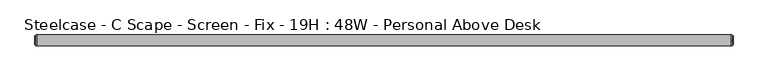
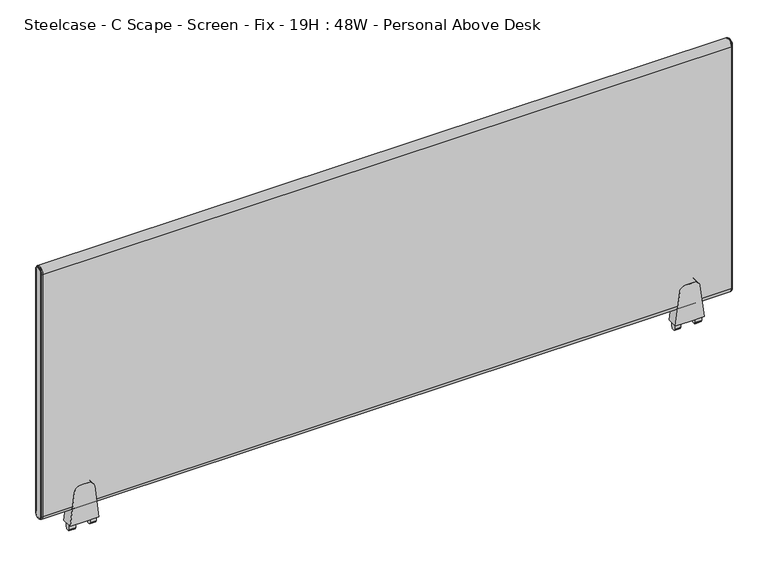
"""IFC4 building model written with IfcOpenShell, lengths in millimetres: furniture geometry, Steelcase - C Scape - Screen - Fix - 19H : 48W - Personal Above Desk."""

from ifc_helpers import new_model, si_unit, point, frame, frame_2d, origin, place, context, project, spatial, polyline, circle_curve, ellipse_curve, trimmed, segment, composite_curve, outline, extrude, source, transform, mapped, element, save
from ifc_brep_helpers import plane_surface, cylinder_surface, revolved_surface, advanced_brep


def steelcase_c_scape_screen_fix_19h_48w_personal_above_desk_32d75e96(model_context):
    return source(origin(), model_context, "Body", "SolidModel", [
        extrude(outline(composite_curve([segment(polyline([(729.653112, 101.4730434), (789.9782421, 94.0661495)]), True, "CONTINUOUS"), segment(trimmed(circle_curve(frame_2d((788.6563718, 83.300233)), 10.8467645), [point((789.9782421, 94.0661495))], [point((799.5031362, 83.300233))], False, "CARTESIAN"), True, "CONTINUOUS"), segment(polyline([(799.5031362, 83.300233), (799.5031362, 76.2001674), (799.5031362, 69.1001018)]), True, "CONTINUOUS"), segment(trimmed(circle_curve(frame_2d((788.6563718, 69.1001018)), 10.8467645), [point((799.5031362, 69.1001018))], [point((789.9782421, 58.3341853))], False, "CARTESIAN"), True, "CONTINUOUS"), segment(polyline([(789.9782421, 58.3341853), (729.653112, 50.9272915), (729.653112, 76.2001674), (729.653112, 101.4730434)]), True, "CONTINUOUS")], self_intersect=False)), frame((0.0, -9.525, 0.0), z_axis=(0.0, 1.0, 0.0), x_axis=(0.0, 0.0, 1.0)), (0.0, 0.0, 1.0), 19.05),
        extrude(outline(polyline([(4.5465975, 729.653112), (4.5465975, 719.7471033), (4.0139265, 718.8606748), (2.9972008, 718.8606748), (2.9972008, 716.6254188), (0.0, 716.534), (-2.9972008, 716.6254188), (-2.9972008, 718.8606748), (-4.0139265, 718.8606748), (-4.5465975, 719.7471033), (-4.5465975, 729.653112), (0.0, 729.653112), (4.5465975, 729.653112)])), frame((88.9267162, 0.0, 0.0), z_axis=(1.0, 0.0, 0.0), x_axis=(0.0, 1.0, 0.0)), (0.0, 0.0, 1.0), 10.7813187),
        extrude(outline(polyline([(4.5465975, 729.653112), (4.5465975, 719.7471033), (4.0139265, 718.8606748), (2.9972008, 718.8606748), (2.9972008, 716.6254188), (0.0, 716.534), (-2.9972008, 716.6254188), (-2.9972008, 718.8606748), (-4.0139265, 718.8606748), (-4.5465975, 719.7471033), (-4.5465975, 729.653112), (0.0, 729.653112), (4.5465975, 729.653112)])), frame((52.6923, 0.0, 0.0), z_axis=(1.0, 0.0, 0.0), x_axis=(0.0, 1.0, 0.0)), (0.0, 0.0, 1.0), 10.7813187),
        extrude(outline(composite_curve([segment(polyline([(729.653112, 1167.5107132), (789.9782421, 1160.1038193)]), True, "CONTINUOUS"), segment(trimmed(circle_curve(frame_2d((788.6563718, 1149.3379028)), 10.8467645), [point((789.9782421, 1160.1038193))], [point((799.5031362, 1149.3379028))], False, "CARTESIAN"), True, "CONTINUOUS"), segment(polyline([(799.5031362, 1149.3379028), (799.5031362, 1142.2378372), (799.5031362, 1135.1377716)]), True, "CONTINUOUS"), segment(trimmed(circle_curve(frame_2d((788.6563718, 1135.1377716)), 10.8467645), [point((799.5031362, 1135.1377716))], [point((789.9782421, 1124.3718551))], False, "CARTESIAN"), True, "CONTINUOUS"), segment(polyline([(789.9782421, 1124.3718551), (729.653112, 1116.9649612), (729.653112, 1142.2378372), (729.653112, 1167.5107132)]), True, "CONTINUOUS")], self_intersect=False)), frame((0.0, -9.525, 0.0), z_axis=(0.0, 1.0, 0.0), x_axis=(0.0, 0.0, 1.0)), (0.0, 0.0, 1.0), 19.05),
        extrude(outline(polyline([(4.5465975, 729.653112), (4.5465975, 719.7471033), (4.0139265, 718.8606748), (2.9972008, 718.8606748), (2.9972008, 716.6254188), (0.0, 716.534), (-2.9972008, 716.6254188), (-2.9972008, 718.8606748), (-4.0139265, 718.8606748), (-4.5465975, 719.7471033), (-4.5465975, 729.653112), (0.0, 729.653112), (4.5465975, 729.653112)])), frame((1154.964386, 0.0, 0.0), z_axis=(1.0, 0.0, 0.0), x_axis=(0.0, 1.0, 0.0)), (0.0, 0.0, 1.0), 10.7813187),
        extrude(outline(polyline([(4.5465975, 729.653112), (4.5465975, 719.7471033), (4.0139265, 718.8606748), (2.9972008, 718.8606748), (2.9972008, 716.6254188), (0.0, 716.534), (-2.9972008, 716.6254188), (-2.9972008, 718.8606748), (-4.0139265, 718.8606748), (-4.5465975, 719.7471033), (-4.5465975, 729.653112), (0.0, 729.653112), (4.5465975, 729.653112)])), frame((1118.7299698, 0.0, 0.0), z_axis=(1.0, 0.0, 0.0), x_axis=(0.0, 1.0, 0.0)), (0.0, 0.0, 1.0), 10.7813187),
        advanced_brep(
        [(1215.6486613, -9.525, 1215.517), (1215.6486613, 9.525, 1215.517), (1215.6486613, 9.525, 764.667), (1215.6486613, -9.525, 764.667), (1218.4426613, 7.4929583, 1215.517), (1218.4426613, -7.4929583, 1215.517), (1218.4426613, -7.4929583, 764.667), (1218.4426613, 7.4929583, 764.667), (1217.9346545, -8.0009651, 1215.517), (1217.9346545, 8.0009651, 1215.517), (1216.6646613, 8.0009651, 1215.517), (1216.6646613, -8.0009651, 1215.517), (1216.6646613, -8.8204932, 1215.517), (1216.6646613, 8.8204932, 1215.517), (1216.6646613, -8.0009651, 764.667), (1217.9346545, -8.0009651, 764.667), (1216.6646613, -8.8204932, 764.667), (1216.6646613, 8.0009651, 764.667), (1217.9346545, 8.0009651, 764.667), (1216.6646613, 8.8204932, 764.667)],
        [
            (0, 1, circle_curve(frame((1215.6486613, 0.0, 1215.517), z_axis=(-1.0, 0.0, 0.0), x_axis=(0.0, 1.0, 0.0)), 9.525)),
            (1, 2),
            (2, 3, circle_curve(frame((1215.6486613, 0.0, 764.667), z_axis=(-1.0, 0.0, 0.0), x_axis=(0.0, -1.0, 0.0)), 9.525)),
            (3, 0),
            (4, 5, circle_curve(frame((1218.4426613, 0.0, 1215.517), z_axis=(1.0, 0.0, 0.0), x_axis=(0.0, 1.0, 0.0)), 7.4929583)),
            (5, 6),
            (6, 7, circle_curve(frame((1218.4426613, 0.0, 764.667), z_axis=(1.0, 0.0, 0.0), x_axis=(0.0, -1.0, 0.0)), 7.4929583)),
            (7, 4),
            (8, 9, circle_curve(frame((1217.9346545, 0.0, 1215.517), z_axis=(-1.0, 0.0, 0.0), x_axis=(0.0, 1.0, 0.0)), 8.0009651)),
            (9, 10),
            (10, 11, circle_curve(frame((1216.6646613, 0.0, 1215.517), z_axis=(1.0, 0.0, 0.0), x_axis=(0.0, 1.0, 0.0)), 8.0009651)),
            (11, 8),
            (8, 5, circle_curve(frame((1217.9346545, -7.4929583, 1215.517), z_axis=(0.0, 0.0, 1.0), x_axis=(0.0, -1.0, 0.0)), 0.5080068)),
            (4, 9, circle_curve(frame((1217.9346545, 7.4929583, 1215.517), z_axis=(0.0, 0.0, 1.0), x_axis=(0.0, 1.0, 0.0)), 0.5080068)),
            (12, 13, circle_curve(frame((1216.6646613, 0.0, 1215.517), z_axis=(-1.0, 0.0, 0.0), x_axis=(0.0, 1.0, 0.0)), 8.8204932)),
            (13, 1, circle_curve(frame((1215.5806211, 8.3420139, 1215.517), z_axis=(0.0, 0.0, 1.0), x_axis=(0.0, 1.0, 0.0)), 1.1849411)),
            (0, 12, circle_curve(frame((1215.5806211, -8.3420139, 1215.517), z_axis=(0.0, 0.0, 1.0), x_axis=(0.0, -1.0, 0.0)), 1.1849411)),
            (11, 14),
            (14, 15),
            (15, 8),
            (15, 6, circle_curve(frame((1217.9346545, -7.4929583, 764.667), z_axis=(0.0, 0.0, 1.0), x_axis=(0.0, -1.0, 0.0)), 0.5080068)),
            (3, 16, circle_curve(frame((1215.5806211, -8.3420139, 764.667), z_axis=(0.0, 0.0, 1.0), x_axis=(0.0, -1.0, 0.0)), 1.1849411)),
            (16, 12),
            (14, 17, circle_curve(frame((1216.6646613, 0.0, 764.667), z_axis=(1.0, 0.0, 0.0), x_axis=(0.0, -1.0, 0.0)), 8.0009651)),
            (17, 18),
            (18, 15, circle_curve(frame((1217.9346545, 0.0, 764.667), z_axis=(-1.0, 0.0, 0.0), x_axis=(0.0, -1.0, 0.0)), 8.0009651)),
            (18, 7, circle_curve(frame((1217.9346545, 7.4929583, 764.667), z_axis=(0.0, 0.0, -1.0), x_axis=(0.0, 1.0, 0.0)), 0.5080068)),
            (2, 19, circle_curve(frame((1215.5806211, 8.3420139, 764.667), z_axis=(0.0, 0.0, -1.0), x_axis=(0.0, 1.0, 0.0)), 1.1849411)),
            (19, 16, circle_curve(frame((1216.6646613, 0.0, 764.667), z_axis=(-1.0, 0.0, 0.0), x_axis=(0.0, -1.0, 0.0)), 8.8204932)),
            (9, 18),
            (17, 10),
            (13, 19),
        ],
        [
            plane_surface(frame((1215.6486613, -6.3509705, 1215.517), z_axis=(-1.0, 0.0, 0.0), x_axis=(0.0, 0.0, 1.0))),
            plane_surface(frame((1218.4426613, -6.3509705, 1215.517), z_axis=(1.0, 0.0, 0.0), x_axis=(0.0, 0.0, -1.0))),
            cylinder_surface(frame((1215.6486613, 0.0, 1215.517), z_axis=(1.0, 0.0, 0.0), x_axis=(0.0, 1.0, 0.0)), 8.0009651),
            revolved_surface(trimmed(ellipse_curve(frame((1217.9346545, 7.4929583, 1215.517), z_axis=(0.0, 0.0, -1.0), x_axis=(0.0, 1.0, 0.0)), 0.5080068, 0.5080068), [point((1217.9346545, 8.0009651, 1215.517))], [point((1218.4426613, 7.4929583, 1215.517))], True, "CARTESIAN"), (1215.6486613, 0.0, 1215.517), (1.0, 0.0, 0.0)),
            revolved_surface(trimmed(ellipse_curve(frame((1215.5806211, 8.3420139, 1215.517), z_axis=(0.0, 0.0, -1.0), x_axis=(0.0, 1.0, 0.0)), 1.1849411, 1.1849411), [point((1215.6486613, 9.525, 1215.517))], [point((1216.6646613, 8.8204932, 1215.517))], True, "CARTESIAN"), (1215.6486613, 0.0, 1215.517), (1.0, 0.0, 0.0)),
            plane_surface(frame((1216.6646613, -8.0009651, 1215.517), z_axis=(0.0, -1.0, 0.0), x_axis=(0.0, 0.0, -1.0))),
            cylinder_surface(frame((1217.9346545, -7.4929583, 1215.517), z_axis=(0.0, 0.0, 1.0), x_axis=(0.0, -1.0, 0.0)), 0.5080068),
            cylinder_surface(frame((1215.5806211, -8.3420139, 1215.517), z_axis=(0.0, 0.0, 1.0), x_axis=(0.0, -1.0, 0.0)), 1.1849411),
            cylinder_surface(frame((1215.6486613, 0.0, 764.667), z_axis=(1.0, 0.0, 0.0), x_axis=(0.0, -1.0, 0.0)), 8.0009651),
            revolved_surface(trimmed(ellipse_curve(frame((1217.9346545, -7.4929583, 764.667), z_axis=(0.0, 0.0, 1.0), x_axis=(0.0, -1.0, 0.0)), 0.5080068, 0.5080068), [point((1217.9346545, -8.0009651, 764.667))], [point((1218.4426613, -7.4929583, 764.667))], True, "CARTESIAN"), (1215.6486613, 0.0, 764.667), (1.0, 0.0, 0.0)),
            revolved_surface(trimmed(ellipse_curve(frame((1215.5806211, -8.3420139, 764.667), z_axis=(0.0, 0.0, 1.0), x_axis=(0.0, -1.0, 0.0)), 1.1849411, 1.1849411), [point((1215.6486613, -9.525, 764.667))], [point((1216.6646613, -8.8204932, 764.667))], True, "CARTESIAN"), (1215.6486613, 0.0, 764.667), (1.0, 0.0, 0.0)),
            plane_surface(frame((1216.6646613, 8.0009651, 764.667), z_axis=(0.0, 1.0, 0.0), x_axis=(0.0, 0.0, 1.0))),
            cylinder_surface(frame((1217.9346545, 7.4929583, 764.667), z_axis=(0.0, 0.0, -1.0), x_axis=(0.0, 1.0, 0.0)), 0.5080068),
            cylinder_surface(frame((1215.5806211, 8.3420139, 764.667), z_axis=(0.0, 0.0, -1.0), x_axis=(0.0, 1.0, 0.0)), 1.1849411),
            plane_surface(frame((1216.6646613, 8.8204932, 764.667), z_axis=(1.0, 0.0, 0.0), x_axis=(0.0, 0.0, 1.0))),
        ],
        [
            (0, [[1, 2, 3, 4]]),
            (1, [[5, 6, 7, 8]]),
            (2, [[9, 10, 11, 12]]),
            (3, [[-9, 13, -5, 14]]),
            (4, [[15, 16, -1, 17]]),
            (5, [[-12, 18, 19, 20]]),
            (6, [[-13, -20, 21, -6]]),
            (7, [[-17, -4, 22, 23]]),
            (8, [[-19, 24, 25, 26]]),
            (9, [[-21, -26, 27, -7]]),
            (10, [[-22, -3, 28, 29]]),
            (11, [[-10, 30, -25, 31]]),
            (12, [[-14, -8, -27, -30]]),
            (13, [[-16, 32, -28, -2]]),
            (14, [[-15, -23, -29, -32], [-11, -31, -24, -18]]),
        ],
    ),
        advanced_brep(
        [(2.7940155, 9.525, 1215.517), (2.7940155, -9.525, 1215.517), (2.7940155, -9.525, 764.667), (2.7940155, 9.525, 764.667), (0.0, -7.4929583, 1215.517), (0.0, 7.4929583, 1215.517), (0.0, 7.4929583, 764.667), (0.0, -7.4929583, 764.667), (1.778, 8.8204932, 1215.517), (1.778, -8.8204932, 1215.517), (0.5080068, -8.0009651, 1215.517), (0.5080068, 8.0009651, 1215.517), (1.778, -8.0009651, 1215.517), (1.778, 8.0009651, 1215.517), (1.778, -8.8204932, 764.667), (0.5080068, -8.0009651, 764.667), (1.778, -8.0009651, 764.667), (1.778, 8.8204932, 764.667), (0.5080068, 8.0009651, 764.667), (1.778, 8.0009651, 764.667)],
        [
            (0, 1, circle_curve(frame((2.7940155, 0.0, 1215.517), z_axis=(1.0, 0.0, 0.0), x_axis=(0.0, 1.0, 0.0)), 9.525)),
            (1, 2),
            (2, 3, circle_curve(frame((2.7940155, 0.0, 764.667), z_axis=(1.0, 0.0, 0.0), x_axis=(0.0, -1.0, 0.0)), 9.525)),
            (3, 0),
            (4, 5, circle_curve(frame((0.0, 0.0, 1215.517), z_axis=(-1.0, 0.0, 0.0), x_axis=(0.0, 1.0, 0.0)), 7.4929583)),
            (5, 6),
            (6, 7, circle_curve(frame((0.0, 0.0, 764.667), z_axis=(-1.0, 0.0, 0.0), x_axis=(0.0, -1.0, 0.0)), 7.4929583)),
            (7, 4),
            (0, 8, circle_curve(frame((2.8620402, 8.3420139, 1215.517), z_axis=(0.0, 0.0, 1.0), x_axis=(0.0, -1.0, 0.0)), 1.1849411)),
            (8, 9, circle_curve(frame((1.778, 0.0, 1215.517), z_axis=(1.0, 0.0, 0.0), x_axis=(0.0, 1.0, 0.0)), 8.8204932)),
            (9, 1, circle_curve(frame((2.8620402, -8.3420139, 1215.517), z_axis=(0.0, 0.0, 1.0), x_axis=(0.0, 1.0, 0.0)), 1.1849411)),
            (10, 11, circle_curve(frame((0.5080068, 0.0, 1215.517), z_axis=(-1.0, 0.0, 0.0), x_axis=(0.0, 1.0, 0.0)), 8.0009651)),
            (11, 5, circle_curve(frame((0.5080068, 7.4929583, 1215.517), z_axis=(0.0, 0.0, 1.0), x_axis=(0.0, -1.0, 0.0)), 0.5080068)),
            (4, 10, circle_curve(frame((0.5080068, -7.4929583, 1215.517), z_axis=(0.0, 0.0, 1.0), x_axis=(0.0, 1.0, 0.0)), 0.5080068)),
            (10, 12),
            (12, 13, circle_curve(frame((1.778, 0.0, 1215.517), z_axis=(-1.0, 0.0, 0.0), x_axis=(0.0, 1.0, 0.0)), 8.0009651)),
            (13, 11),
            (9, 14),
            (14, 2, circle_curve(frame((2.8620402, -8.3420139, 764.667), z_axis=(0.0, 0.0, 1.0), x_axis=(0.0, 1.0, 0.0)), 1.1849411)),
            (7, 15, circle_curve(frame((0.5080068, -7.4929583, 764.667), z_axis=(0.0, 0.0, 1.0), x_axis=(0.0, 1.0, 0.0)), 0.5080068)),
            (15, 10),
            (15, 16),
            (16, 12),
            (14, 17, circle_curve(frame((1.778, 0.0, 764.667), z_axis=(1.0, 0.0, 0.0), x_axis=(0.0, -1.0, 0.0)), 8.8204932)),
            (17, 3, circle_curve(frame((2.8620402, 8.3420139, 764.667), z_axis=(0.0, 0.0, -1.0), x_axis=(0.0, -1.0, 0.0)), 1.1849411)),
            (6, 18, circle_curve(frame((0.5080068, 7.4929583, 764.667), z_axis=(0.0, 0.0, -1.0), x_axis=(0.0, -1.0, 0.0)), 0.5080068)),
            (18, 15, circle_curve(frame((0.5080068, 0.0, 764.667), z_axis=(-1.0, 0.0, 0.0), x_axis=(0.0, -1.0, 0.0)), 8.0009651)),
            (18, 19),
            (19, 16, circle_curve(frame((1.778, 0.0, 764.667), z_axis=(-1.0, 0.0, 0.0), x_axis=(0.0, -1.0, 0.0)), 8.0009651)),
            (8, 17),
            (19, 13),
            (11, 18),
        ],
        [
            plane_surface(frame((2.7940155, -6.3509705, 1215.517), z_axis=(1.0, 0.0, 0.0), x_axis=(0.0, 0.0, -1.0))),
            plane_surface(frame((0.0, -6.3509705, 1215.517), z_axis=(-1.0, 0.0, 0.0), x_axis=(0.0, 0.0, 1.0))),
            revolved_surface(trimmed(ellipse_curve(frame((2.8620402, 8.3420139, 1215.517), z_axis=(0.0, 0.0, -1.0), x_axis=(0.0, -1.0, 0.0)), 1.1849411, 1.1849411), [point((1.778, 8.8204932, 1215.517))], [point((2.794, 9.525, 1215.517))], True, "CARTESIAN"), (2.794, 0.0, 1215.517), (1.0, 0.0, 0.0)),
            revolved_surface(trimmed(ellipse_curve(frame((0.5080068, 7.4929583, 1215.517), z_axis=(0.0, 0.0, -1.0), x_axis=(0.0, -1.0, 0.0)), 0.5080068, 0.5080068), [point((0.0, 7.4929583, 1215.517))], [point((0.5080068, 8.0009651, 1215.517))], True, "CARTESIAN"), (2.794, 0.0, 1215.517), (1.0, 0.0, 0.0)),
            cylinder_surface(frame((2.794, 0.0, 1215.517), z_axis=(1.0, 0.0, 0.0), x_axis=(0.0, 1.0, 0.0)), 8.0009651),
            cylinder_surface(frame((2.8620402, -8.3420139, 1215.517), z_axis=(0.0, 0.0, 1.0), x_axis=(0.0, 1.0, 0.0)), 1.1849411),
            cylinder_surface(frame((0.5080068, -7.4929583, 1215.517), z_axis=(0.0, 0.0, 1.0), x_axis=(0.0, 1.0, 0.0)), 0.5080068),
            plane_surface(frame((0.5080068, -8.0009651, 1215.517), z_axis=(0.0, -1.0, 0.0), x_axis=(0.0, 0.0, -1.0))),
            revolved_surface(trimmed(ellipse_curve(frame((2.8620402, -8.3420139, 764.667), z_axis=(0.0, 0.0, 1.0), x_axis=(0.0, 1.0, 0.0)), 1.1849411, 1.1849411), [point((1.778, -8.8204932, 764.667))], [point((2.794, -9.525, 764.667))], True, "CARTESIAN"), (2.794, 0.0, 764.667), (1.0, 0.0, 0.0)),
            revolved_surface(trimmed(ellipse_curve(frame((0.5080068, -7.4929583, 764.667), z_axis=(0.0, 0.0, 1.0), x_axis=(0.0, 1.0, 0.0)), 0.5080068, 0.5080068), [point((0.0, -7.4929583, 764.667))], [point((0.5080068, -8.0009651, 764.667))], True, "CARTESIAN"), (2.794, 0.0, 764.667), (1.0, 0.0, 0.0)),
            cylinder_surface(frame((2.794, 0.0, 764.667), z_axis=(1.0, 0.0, 0.0), x_axis=(0.0, -1.0, 0.0)), 8.0009651),
            plane_surface(frame((1.778, 8.0009651, 764.667), z_axis=(-1.0, 0.0, 0.0), x_axis=(0.0, 0.0, 1.0))),
            cylinder_surface(frame((2.8620402, 8.3420139, 764.667), z_axis=(0.0, 0.0, -1.0), x_axis=(0.0, -1.0, 0.0)), 1.1849411),
            cylinder_surface(frame((0.5080068, 7.4929583, 764.667), z_axis=(0.0, 0.0, -1.0), x_axis=(0.0, -1.0, 0.0)), 0.5080068),
            plane_surface(frame((0.5080068, 8.0009651, 764.667), z_axis=(0.0, 1.0, 0.0), x_axis=(0.0, 0.0, 1.0))),
        ],
        [
            (0, [[1, 2, 3, 4]]),
            (1, [[5, 6, 7, 8]]),
            (2, [[-1, 9, 10, 11]]),
            (3, [[12, 13, -5, 14]]),
            (4, [[-12, 15, 16, 17]]),
            (5, [[-11, 18, 19, -2]]),
            (6, [[-14, -8, 20, 21]]),
            (7, [[-15, -21, 22, 23]]),
            (8, [[-19, 24, 25, -3]]),
            (9, [[-20, -7, 26, 27]]),
            (10, [[-22, -27, 28, 29]]),
            (11, [[-10, 30, -24, -18], [-16, -23, -29, 31]]),
            (12, [[-9, -4, -25, -30]]),
            (13, [[-13, 32, -26, -6]]),
            (14, [[-17, -31, -28, -32]]),
        ],
    ),
        extrude(outline(composite_curve([segment(trimmed(circle_curve(frame_2d((0.0, 1215.517)), 9.525), [point((-9.525, 1215.517))], [point((9.525, 1215.517))], False, "CARTESIAN"), True, "CONTINUOUS"), segment(polyline([(9.525, 1215.517), (9.525, 764.667)]), True, "CONTINUOUS"), segment(trimmed(circle_curve(frame_2d((0.0, 764.667)), 9.525), [point((9.525, 764.667))], [point((-9.525, 764.667))], False, "CARTESIAN"), True, "CONTINUOUS"), segment(polyline([(-9.525, 764.667), (-9.525, 1215.517)]), True, "CONTINUOUS")], self_intersect=False)), frame((2.794, 0.0, 0.0), z_axis=(1.0, 0.0, 0.0), x_axis=(0.0, 1.0, 0.0)), (0.0, 0.0, 1.0), 1212.8546613),
    ])


if __name__ == "__main__":
    model = new_model("IFC4")
    model_context = context("Model", 3, world=origin())
    ifc_project = project(units=[si_unit("LENGTHUNIT", "METRE", prefix="MILLI")], contexts=[model_context])
    site = spatial("IfcSite", under=ifc_project)
    building = spatial("IfcBuilding", under=site)
    placement = place(None, origin())
    steelcase_c_scape_screen_fix_19h_48w_personal_above_desk_shape = steelcase_c_scape_screen_fix_19h_48w_personal_above_desk_32d75e96(model_context)
    element("IfcFurniture", 1, ObjectType="Steelcase - C Scape - Screen - Fix - 19H : 48W - Personal Above Desk", at=placement, inside=building, context=model_context, shape_type="MappedRepresentation", body=[
        mapped(steelcase_c_scape_screen_fix_19h_48w_personal_above_desk_shape, transform((0.0, 0.0, 0.0), x_axis=(1.0, 0.0, 0.0), y_axis=(0.0, 1.0, 0.0), z_axis=(0.0, 0.0, 1.0))),
    ])
    save(model, "model.ifc")
